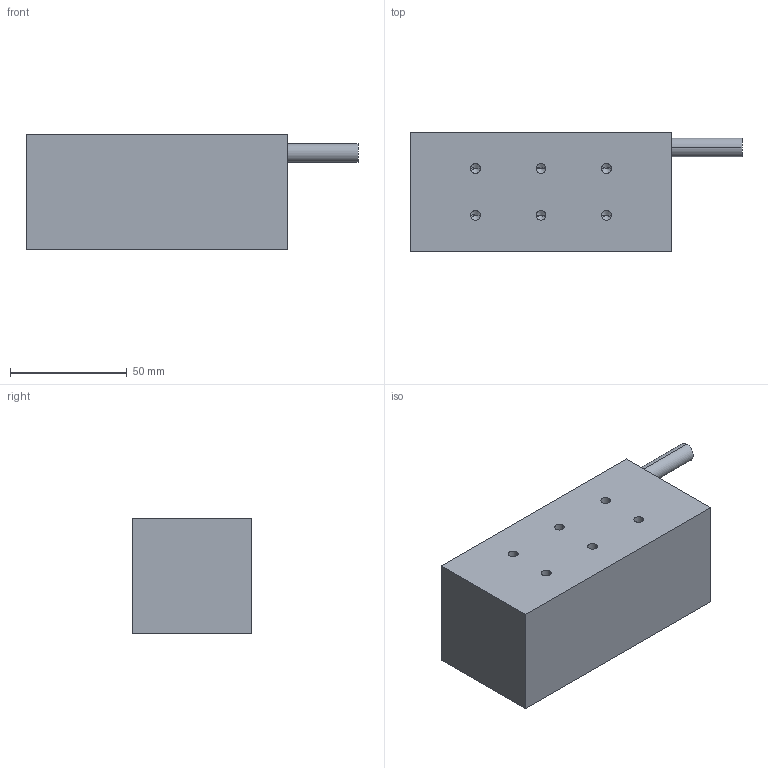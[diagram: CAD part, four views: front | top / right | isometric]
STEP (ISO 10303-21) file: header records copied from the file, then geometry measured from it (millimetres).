
FILE_DESCRIPTION (( 'STEP AP214' ), '1' );
FILE_NAME ('WKM30A雄赽.STEP', '2025-09-05T11:37:06', ( '' ), ( '' ), 'SwSTEP 2.0', 'SolidWorks 2016', '' );
FILE_SCHEMA (( 'AUTOMOTIVE_DESIGN' ));
Length unit declared in the file: millimetre
Products named in the file (1): WKM30A雄赽
Bounding box: 142 x 51 x 49.3 mm (x, y, z)
Volume: 282617.4 mm3; surface area: 28699.1 mm2
Topology: 1 solids, 1 shells, 33 faces, 78 edges, 42 vertices
Faces by surface type: cylinder 14, cone 12, plane 7
Entity records: 1026 total; most frequent: DIRECTION 162, CARTESIAN_POINT 142, ORIENTED_EDGE 132, EDGE_CURVE 66, AXIS2_PLACEMENT_3D 62, VERTEX_POINT 42, EDGE_LOOP 40, LINE 38
